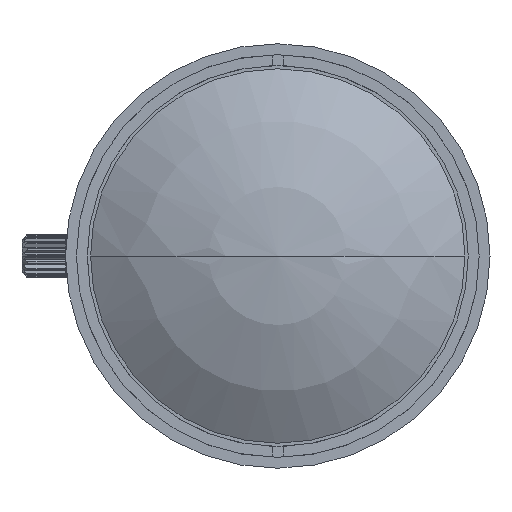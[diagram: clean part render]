
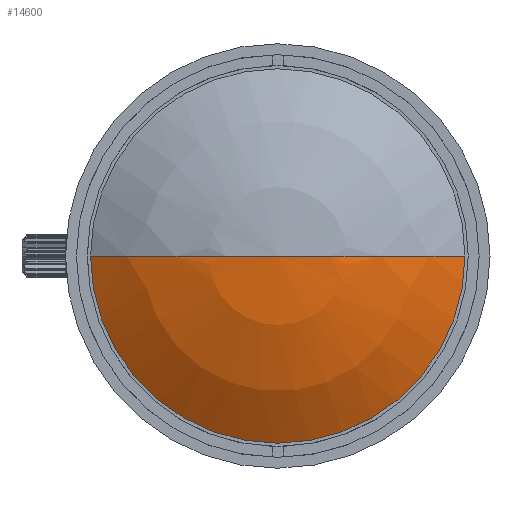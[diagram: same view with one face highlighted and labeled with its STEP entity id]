
A CAD part, left-side view. The second image highlights one B-rep face of the part: STEP entity #14600.
In plain terms, the highlighted spherical face has radius 31.153 mm.
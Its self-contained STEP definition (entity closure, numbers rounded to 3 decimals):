
#2061=CARTESIAN_POINT('',(32.834,0.,0.));
#2062=DIRECTION('',(0.,0.,1.));
#2063=DIRECTION('',(-1.,0.,0.));
#2064=AXIS2_PLACEMENT_3D('',#2061,#2062,#2063);
#2066=CARTESIAN_POINT('',(7.407,0.,0.));
#2067=DIRECTION('',(1.,0.,0.));
#2068=DIRECTION('',(0.,-1.,0.));
#2069=AXIS2_PLACEMENT_3D('',#2066,#2067,#2068);
#2071=CARTESIAN_POINT('',(32.834,0.,0.));
#2072=DIRECTION('',(0.,0.,-1.));
#2073=DIRECTION('',(-1.,0.,0.));
#2074=AXIS2_PLACEMENT_3D('',#2071,#2072,#2073);
#11532=CARTESIAN_POINT('',(7.407,-18.,0.));
#11533=VERTEX_POINT('',#11532);
#11534=CARTESIAN_POINT('',(7.407,18.,
0.));
#11535=VERTEX_POINT('',#11534);
#11538=CARTESIAN_POINT('',(1.681,0.,0.));
#11539=VERTEX_POINT('',#11538);
#14588=CARTESIAN_POINT('',(32.834,0.,0.));
#14589=DIRECTION('',(1.,0.,0.));
#14590=DIRECTION('',(0.,-1.,0.));
#14591=AXIS2_PLACEMENT_3D('',#14588,#14589,#14590);
#14592=SPHERICAL_SURFACE('',#14591,31.153);
#14594=ORIENTED_EDGE('',*,*,#14593,.F.);
#14596=ORIENTED_EDGE('',*,*,#14595,.T.);
#14597=ORIENTED_EDGE('',*,*,#14561,.T.);
#14598=EDGE_LOOP('',(#14594,#14596,#14597));
#14599=FACE_OUTER_BOUND('',#14598,.F.);
#2065=CIRCLE('',#2064,31.153);
#2070=CIRCLE('',#2069,18.);
#2075=CIRCLE('',#2074,31.153);
#14561=EDGE_CURVE('',#11533,#11535,#2070,.T.);
#14593=EDGE_CURVE('',#11539,#11535,#2075,.T.);
#14595=EDGE_CURVE('',#11539,#11533,#2065,.T.);
#14600=ADVANCED_FACE('',(#14599),#14592,.T.);
